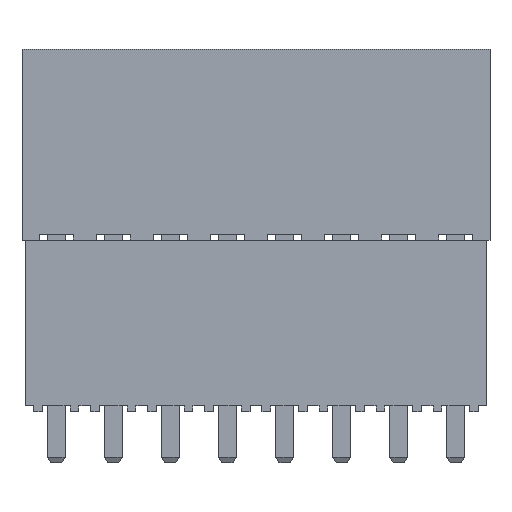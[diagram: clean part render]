
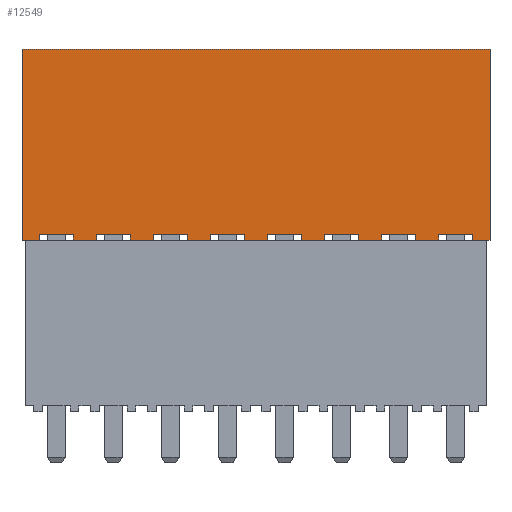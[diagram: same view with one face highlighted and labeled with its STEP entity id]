
A CAD part, top view. The second image highlights one B-rep face of the part: STEP entity #12549.
In plain terms, the highlighted planar face has unit normal (0, 0, 1).
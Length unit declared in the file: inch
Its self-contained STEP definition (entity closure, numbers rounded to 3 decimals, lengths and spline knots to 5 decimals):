
#198=ORIENTED_EDGE('',*,*,#3829,.F.);
#199=ORIENTED_EDGE('',*,*,#3733,.T.);
#200=ORIENTED_EDGE('',*,*,#3830,.F.);
#201=ORIENTED_EDGE('',*,*,#3831,.F.);
#202=ORIENTED_EDGE('',*,*,#3832,.T.);
#203=ORIENTED_EDGE('',*,*,#3763,.T.);
#204=ORIENTED_EDGE('',*,*,#3833,.F.);
#205=ORIENTED_EDGE('',*,*,#3834,.F.);
#206=ORIENTED_EDGE('',*,*,#3835,.F.);
#207=ORIENTED_EDGE('',*,*,#3759,.T.);
#208=ORIENTED_EDGE('',*,*,#3836,.F.);
#209=ORIENTED_EDGE('',*,*,#3837,.F.);
#210=ORIENTED_EDGE('',*,*,#3838,.F.);
#211=ORIENTED_EDGE('',*,*,#3755,.T.);
#212=ORIENTED_EDGE('',*,*,#3839,.F.);
#213=ORIENTED_EDGE('',*,*,#3840,.F.);
#214=ORIENTED_EDGE('',*,*,#3841,.F.);
#215=ORIENTED_EDGE('',*,*,#3751,.T.);
#216=ORIENTED_EDGE('',*,*,#3842,.F.);
#217=ORIENTED_EDGE('',*,*,#3843,.F.);
#218=ORIENTED_EDGE('',*,*,#3844,.F.);
#219=ORIENTED_EDGE('',*,*,#3747,.T.);
#220=ORIENTED_EDGE('',*,*,#3845,.F.);
#221=ORIENTED_EDGE('',*,*,#3846,.F.);
#222=ORIENTED_EDGE('',*,*,#3847,.F.);
#223=ORIENTED_EDGE('',*,*,#3743,.T.);
#224=ORIENTED_EDGE('',*,*,#3848,.F.);
#225=ORIENTED_EDGE('',*,*,#3849,.F.);
#226=ORIENTED_EDGE('',*,*,#3850,.F.);
#227=ORIENTED_EDGE('',*,*,#3739,.T.);
#228=ORIENTED_EDGE('',*,*,#3851,.F.);
#229=ORIENTED_EDGE('',*,*,#3852,.F.);
#230=ORIENTED_EDGE('',*,*,#3853,.F.);
#231=ORIENTED_EDGE('',*,*,#3735,.T.);
#232=ORIENTED_EDGE('',*,*,#3854,.F.);
#233=ORIENTED_EDGE('',*,*,#3855,.F.);
#3733=EDGE_CURVE('',#5550,#5553,#6745,.T.);
#3735=EDGE_CURVE('',#5556,#5554,#6747,.T.);
#3739=EDGE_CURVE('',#5560,#5558,#6751,.T.);
#3743=EDGE_CURVE('',#5564,#5562,#6755,.T.);
#3747=EDGE_CURVE('',#5568,#5566,#6759,.T.);
#3751=EDGE_CURVE('',#5572,#5570,#6763,.T.);
#3755=EDGE_CURVE('',#5576,#5574,#6767,.T.);
#3759=EDGE_CURVE('',#5580,#5578,#6771,.T.);
#3763=EDGE_CURVE('',#5584,#5582,#6775,.T.);
#3829=EDGE_CURVE('',#5550,#5640,#6841,.T.);
#3830=EDGE_CURVE('',#5641,#5553,#6842,.T.);
#3831=EDGE_CURVE('',#5642,#5641,#6843,.T.);
#3832=EDGE_CURVE('',#5642,#5584,#6844,.T.);
#3833=EDGE_CURVE('',#5643,#5582,#6845,.T.);
#3834=EDGE_CURVE('',#5644,#5643,#6846,.T.);
#3835=EDGE_CURVE('',#5580,#5644,#6847,.T.);
#3836=EDGE_CURVE('',#5645,#5578,#6848,.T.);
#3837=EDGE_CURVE('',#5646,#5645,#6849,.T.);
#3838=EDGE_CURVE('',#5576,#5646,#6850,.T.);
#3839=EDGE_CURVE('',#5647,#5574,#6851,.T.);
#3840=EDGE_CURVE('',#5648,#5647,#6852,.T.);
#3841=EDGE_CURVE('',#5572,#5648,#6853,.T.);
#3842=EDGE_CURVE('',#5649,#5570,#6854,.T.);
#3843=EDGE_CURVE('',#5650,#5649,#6855,.T.);
#3844=EDGE_CURVE('',#5568,#5650,#6856,.T.);
#3845=EDGE_CURVE('',#5651,#5566,#6857,.T.);
#3846=EDGE_CURVE('',#5652,#5651,#6858,.T.);
#3847=EDGE_CURVE('',#5564,#5652,#6859,.T.);
#3848=EDGE_CURVE('',#5653,#5562,#6860,.T.);
#3849=EDGE_CURVE('',#5654,#5653,#6861,.T.);
#3850=EDGE_CURVE('',#5560,#5654,#6862,.T.);
#3851=EDGE_CURVE('',#5655,#5558,#6863,.T.);
#3852=EDGE_CURVE('',#5656,#5655,#6864,.T.);
#3853=EDGE_CURVE('',#5556,#5656,#6865,.T.);
#3854=EDGE_CURVE('',#5657,#5554,#6866,.T.);
#3855=EDGE_CURVE('',#5640,#5657,#6867,.T.);
#5550=VERTEX_POINT('',#17250);
#5553=VERTEX_POINT('',#17255);
#5554=VERTEX_POINT('',#17259);
#5556=VERTEX_POINT('',#17262);
#5558=VERTEX_POINT('',#17268);
#5560=VERTEX_POINT('',#17271);
#5562=VERTEX_POINT('',#17277);
#5564=VERTEX_POINT('',#17280);
#5566=VERTEX_POINT('',#17286);
#5568=VERTEX_POINT('',#17289);
#5570=VERTEX_POINT('',#17295);
#5572=VERTEX_POINT('',#17298);
#5574=VERTEX_POINT('',#17304);
#5576=VERTEX_POINT('',#17307);
#5578=VERTEX_POINT('',#17313);
#5580=VERTEX_POINT('',#17316);
#5582=VERTEX_POINT('',#17322);
#5584=VERTEX_POINT('',#17325);
#5640=VERTEX_POINT('',#17458);
#5641=VERTEX_POINT('',#17460);
#5642=VERTEX_POINT('',#17462);
#5643=VERTEX_POINT('',#17465);
#5644=VERTEX_POINT('',#17467);
#5645=VERTEX_POINT('',#17470);
#5646=VERTEX_POINT('',#17472);
#5647=VERTEX_POINT('',#17475);
#5648=VERTEX_POINT('',#17477);
#5649=VERTEX_POINT('',#17480);
#5650=VERTEX_POINT('',#17482);
#5651=VERTEX_POINT('',#17485);
#5652=VERTEX_POINT('',#17487);
#5653=VERTEX_POINT('',#17490);
#5654=VERTEX_POINT('',#17492);
#5655=VERTEX_POINT('',#17495);
#5656=VERTEX_POINT('',#17497);
#5657=VERTEX_POINT('',#17500);
#6745=LINE('',#17256,#8533);
#6747=LINE('',#17261,#8535);
#6751=LINE('',#17270,#8539);
#6755=LINE('',#17279,#8543);
#6759=LINE('',#17288,#8547);
#6763=LINE('',#17297,#8551);
#6767=LINE('',#17306,#8555);
#6771=LINE('',#17315,#8559);
#6775=LINE('',#17324,#8563);
#6841=LINE('',#17457,#8629);
#6842=LINE('',#17459,#8630);
#6843=LINE('',#17461,#8631);
#6844=LINE('',#17463,#8632);
#6845=LINE('',#17464,#8633);
#6846=LINE('',#17466,#8634);
#6847=LINE('',#17468,#8635);
#6848=LINE('',#17469,#8636);
#6849=LINE('',#17471,#8637);
#6850=LINE('',#17473,#8638);
#6851=LINE('',#17474,#8639);
#6852=LINE('',#17476,#8640);
#6853=LINE('',#17478,#8641);
#6854=LINE('',#17479,#8642);
#6855=LINE('',#17481,#8643);
#6856=LINE('',#17483,#8644);
#6857=LINE('',#17484,#8645);
#6858=LINE('',#17486,#8646);
#6859=LINE('',#17488,#8647);
#6860=LINE('',#17489,#8648);
#6861=LINE('',#17491,#8649);
#6862=LINE('',#17493,#8650);
#6863=LINE('',#17494,#8651);
#6864=LINE('',#17496,#8652);
#6865=LINE('',#17498,#8653);
#6866=LINE('',#17499,#8654);
#6867=LINE('',#17501,#8655);
#8533=VECTOR('',#13992,39.37008);
#8535=VECTOR('',#13996,39.37008);
#8539=VECTOR('',#14002,39.37008);
#8543=VECTOR('',#14008,39.37008);
#8547=VECTOR('',#14014,39.37008);
#8551=VECTOR('',#14020,39.37008);
#8555=VECTOR('',#14026,39.37008);
#8559=VECTOR('',#14032,39.37008);
#8563=VECTOR('',#14038,39.37008);
#8629=VECTOR('',#14126,39.37008);
#8630=VECTOR('',#14127,39.37008);
#8631=VECTOR('',#14128,39.37008);
#8632=VECTOR('',#14129,39.37008);
#8633=VECTOR('',#14130,39.37008);
#8634=VECTOR('',#14131,39.37008);
#8635=VECTOR('',#14132,39.37008);
#8636=VECTOR('',#14133,39.37008);
#8637=VECTOR('',#14134,39.37008);
#8638=VECTOR('',#14135,39.37008);
#8639=VECTOR('',#14136,39.37008);
#8640=VECTOR('',#14137,39.37008);
#8641=VECTOR('',#14138,39.37008);
#8642=VECTOR('',#14139,39.37008);
#8643=VECTOR('',#14140,39.37008);
#8644=VECTOR('',#14141,39.37008);
#8645=VECTOR('',#14142,39.37008);
#8646=VECTOR('',#14143,39.37008);
#8647=VECTOR('',#14144,39.37008);
#8648=VECTOR('',#14145,39.37008);
#8649=VECTOR('',#14146,39.37008);
#8650=VECTOR('',#14147,39.37008);
#8651=VECTOR('',#14148,39.37008);
#8652=VECTOR('',#14149,39.37008);
#8653=VECTOR('',#14150,39.37008);
#8654=VECTOR('',#14151,39.37008);
#8655=VECTOR('',#14152,39.37008);
#10337=EDGE_LOOP('',(#198,#199,#200,#201,#202,#203,#204,#205,#206,#207,
#208,#209,#210,#211,#212,#213,#214,#215,#216,#217,#218,#219,#220,#221,#222,
#223,#224,#225,#226,#227,#228,#229,#230,#231,#232,#233));
#11101=FACE_BOUND('',#10337,.T.);
#11865=PLANE('',#13268);
#12549=ADVANCED_FACE('',(#11101),#11865,.F.);
#13268=AXIS2_PLACEMENT_3D('',#17456,#14124,#14125);
#13992=DIRECTION('',(1.,0.,0.));
#13996=DIRECTION('',(1.,0.,0.));
#14002=DIRECTION('',(1.,0.,0.));
#14008=DIRECTION('',(1.,0.,0.));
#14014=DIRECTION('',(1.,0.,0.));
#14020=DIRECTION('',(1.,0.,0.));
#14026=DIRECTION('',(1.,0.,0.));
#14032=DIRECTION('',(1.,0.,0.));
#14038=DIRECTION('',(1.,0.,0.));
#14124=DIRECTION('',(0.,0.,-1.));
#14125=DIRECTION('',(-1.,0.,0.));
#14126=DIRECTION('',(0.,1.,0.));
#14127=DIRECTION('',(0.,-1.,0.));
#14128=DIRECTION('',(1.,0.,0.));
#14129=DIRECTION('',(0.,-1.,0.));
#14130=DIRECTION('',(0.,-1.,0.));
#14131=DIRECTION('',(-1.,0.,0.));
#14132=DIRECTION('',(0.,1.,0.));
#14133=DIRECTION('',(0.,-1.,0.));
#14134=DIRECTION('',(-1.,0.,0.));
#14135=DIRECTION('',(0.,1.,0.));
#14136=DIRECTION('',(0.,-1.,0.));
#14137=DIRECTION('',(-1.,0.,0.));
#14138=DIRECTION('',(0.,1.,0.));
#14139=DIRECTION('',(0.,-1.,0.));
#14140=DIRECTION('',(-1.,0.,0.));
#14141=DIRECTION('',(0.,1.,0.));
#14142=DIRECTION('',(0.,-1.,0.));
#14143=DIRECTION('',(-1.,0.,0.));
#14144=DIRECTION('',(0.,1.,0.));
#14145=DIRECTION('',(0.,-1.,0.));
#14146=DIRECTION('',(-1.,0.,0.));
#14147=DIRECTION('',(0.,1.,0.));
#14148=DIRECTION('',(0.,-1.,0.));
#14149=DIRECTION('',(-1.,0.,0.));
#14150=DIRECTION('',(0.,1.,0.));
#14151=DIRECTION('',(0.,-1.,0.));
#14152=DIRECTION('',(-1.,0.,0.));
#17250=CARTESIAN_POINT('',(0.79,0.,0.0975));
#17255=CARTESIAN_POINT('',(0.82,0.,0.0975));
#17256=CARTESIAN_POINT('',(0.,0.,0.0975));
#17259=CARTESIAN_POINT('',(0.73,0.,0.0975));
#17261=CARTESIAN_POINT('',(0.,0.,0.0975));
#17262=CARTESIAN_POINT('',(0.69,0.,0.0975));
#17268=CARTESIAN_POINT('',(0.63,0.,0.0975));
#17270=CARTESIAN_POINT('',(0.,0.,0.0975));
#17271=CARTESIAN_POINT('',(0.59,0.,0.0975));
#17277=CARTESIAN_POINT('',(0.53,0.,0.0975));
#17279=CARTESIAN_POINT('',(0.,0.,0.0975));
#17280=CARTESIAN_POINT('',(0.49,0.,0.0975));
#17286=CARTESIAN_POINT('',(0.43,0.,0.0975));
#17288=CARTESIAN_POINT('',(0.,0.,0.0975));
#17289=CARTESIAN_POINT('',(0.39,0.,0.0975));
#17295=CARTESIAN_POINT('',(0.33,0.,0.0975));
#17297=CARTESIAN_POINT('',(0.,0.,0.0975));
#17298=CARTESIAN_POINT('',(0.29,0.,0.0975));
#17304=CARTESIAN_POINT('',(0.23,0.,0.0975));
#17306=CARTESIAN_POINT('',(0.,0.,0.0975));
#17307=CARTESIAN_POINT('',(0.19,0.,0.0975));
#17313=CARTESIAN_POINT('',(0.13,0.,0.0975));
#17315=CARTESIAN_POINT('',(0.,0.,0.0975));
#17316=CARTESIAN_POINT('',(0.09,0.,0.0975));
#17322=CARTESIAN_POINT('',(0.03,0.,0.0975));
#17324=CARTESIAN_POINT('',(0.,0.,0.0975));
#17325=CARTESIAN_POINT('',(0.,0.,0.0975));
#17456=CARTESIAN_POINT('',(0.,0.335,0.0975));
#17457=CARTESIAN_POINT('',(0.79,0.,0.0975));
#17458=CARTESIAN_POINT('',(0.79,0.01,0.0975));
#17459=CARTESIAN_POINT('',(0.82,0.335,0.0975));
#17460=CARTESIAN_POINT('',(0.82,0.335,0.0975));
#17461=CARTESIAN_POINT('',(0.,0.335,0.0975));
#17462=CARTESIAN_POINT('',(0.,0.335,0.0975));
#17463=CARTESIAN_POINT('',(0.,0.335,0.0975));
#17464=CARTESIAN_POINT('',(0.03,0.01,0.0975));
#17465=CARTESIAN_POINT('',(0.03,0.01,0.0975));
#17466=CARTESIAN_POINT('',(0.09,0.01,0.0975));
#17467=CARTESIAN_POINT('',(0.09,0.01,0.0975));
#17468=CARTESIAN_POINT('',(0.09,0.,0.0975));
#17469=CARTESIAN_POINT('',(0.13,0.01,0.0975));
#17470=CARTESIAN_POINT('',(0.13,0.01,0.0975));
#17471=CARTESIAN_POINT('',(0.19,0.01,0.0975));
#17472=CARTESIAN_POINT('',(0.19,0.01,0.0975));
#17473=CARTESIAN_POINT('',(0.19,0.,0.0975));
#17474=CARTESIAN_POINT('',(0.23,0.01,0.0975));
#17475=CARTESIAN_POINT('',(0.23,0.01,0.0975));
#17476=CARTESIAN_POINT('',(0.29,0.01,0.0975));
#17477=CARTESIAN_POINT('',(0.29,0.01,0.0975));
#17478=CARTESIAN_POINT('',(0.29,0.,0.0975));
#17479=CARTESIAN_POINT('',(0.33,0.01,0.0975));
#17480=CARTESIAN_POINT('',(0.33,0.01,0.0975));
#17481=CARTESIAN_POINT('',(0.39,0.01,0.0975));
#17482=CARTESIAN_POINT('',(0.39,0.01,0.0975));
#17483=CARTESIAN_POINT('',(0.39,0.,0.0975));
#17484=CARTESIAN_POINT('',(0.43,0.01,0.0975));
#17485=CARTESIAN_POINT('',(0.43,0.01,0.0975));
#17486=CARTESIAN_POINT('',(0.49,0.01,0.0975));
#17487=CARTESIAN_POINT('',(0.49,0.01,0.0975));
#17488=CARTESIAN_POINT('',(0.49,0.,0.0975));
#17489=CARTESIAN_POINT('',(0.53,0.01,0.0975));
#17490=CARTESIAN_POINT('',(0.53,0.01,0.0975));
#17491=CARTESIAN_POINT('',(0.59,0.01,0.0975));
#17492=CARTESIAN_POINT('',(0.59,0.01,0.0975));
#17493=CARTESIAN_POINT('',(0.59,0.,0.0975));
#17494=CARTESIAN_POINT('',(0.63,0.01,0.0975));
#17495=CARTESIAN_POINT('',(0.63,0.01,0.0975));
#17496=CARTESIAN_POINT('',(0.69,0.01,0.0975));
#17497=CARTESIAN_POINT('',(0.69,0.01,0.0975));
#17498=CARTESIAN_POINT('',(0.69,0.,0.0975));
#17499=CARTESIAN_POINT('',(0.73,0.01,0.0975));
#17500=CARTESIAN_POINT('',(0.73,0.01,0.0975));
#17501=CARTESIAN_POINT('',(0.79,0.01,0.0975));
